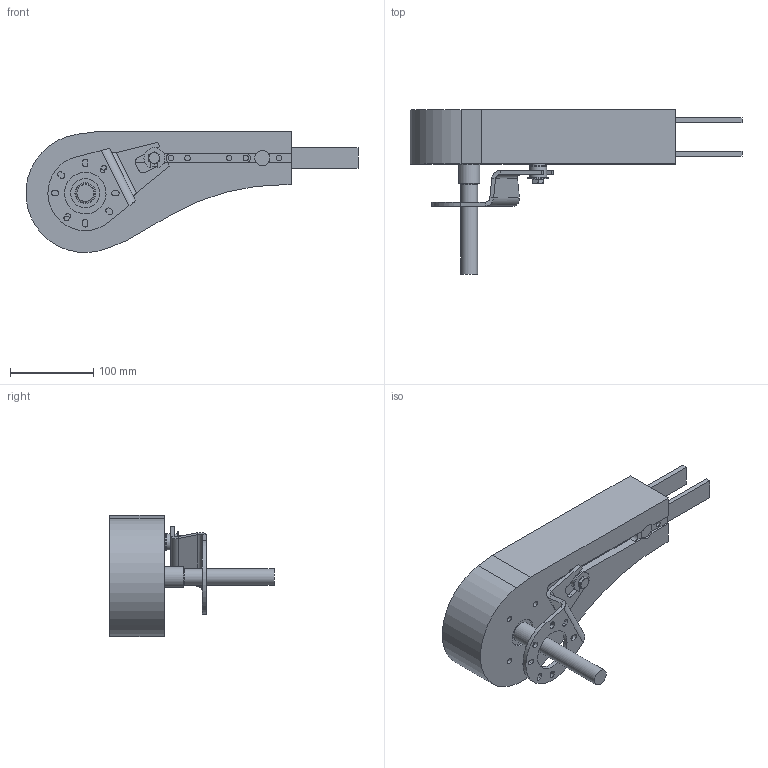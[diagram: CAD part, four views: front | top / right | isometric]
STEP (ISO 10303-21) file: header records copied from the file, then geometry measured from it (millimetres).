
FILE_DESCRIPTION(/* description */ ('Endantriebseinheit FL, medium, ohne Rutschkupplung, links, geschlossen, direkt'),/* implementation_level */ '2;1');
FILE_NAME(/* name */ 'T:\vdz0\Step Daten Website\modulflex FL-System\Antriebseinheiten rechts - links\FLEB_MNLGP_MB-73457.stp',/* time_stamp */ '2024-08-21T10:42:42+02:00',/* author */ ('vdz0'),/* organization */ ('modular automation GmbH'),/* preprocessor_version */ 'ST-DEVELOPER v18.1',/* originating_system */ 'Autodesk Inventor 2021',/* authorisation */ '');
FILE_SCHEMA (('CONFIG_CONTROL_DESIGN'));
Length unit declared in the file: millimetre
Products named in the file (1): FLEB_MNLGP_MB
Bounding box: 399.29 x 197.3 x 145.63 mm (x, y, z)
Volume: 2167014.3 mm3; surface area: 169607.4 mm2
Topology: 1 solids, 1 shells, 205 faces, 492 edges, 321 vertices
Faces by surface type: plane 124, cylinder 70, cone 6, bspline 4, torus 1
Full cylindrical faces by diameter (mm): 6.6 x8, 6.647 x10, 8 x1, 8.1 x1, 11.63 x1, 12 x2, 12.1 x1, 16 x1, 18.3 x4, 20 x3, 25 x1, 35 x2, 50 x1
Entity records: 6709 total; most frequent: CARTESIAN_POINT 1483, DIRECTION 1040, ORIENTED_EDGE 984, EDGE_CURVE 492, AXIS2_PLACEMENT_3D 366, VERTEX_POINT 321, LINE 308, VECTOR 308
